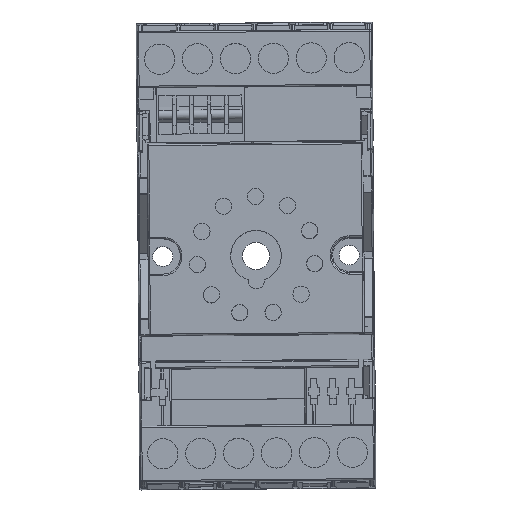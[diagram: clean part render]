
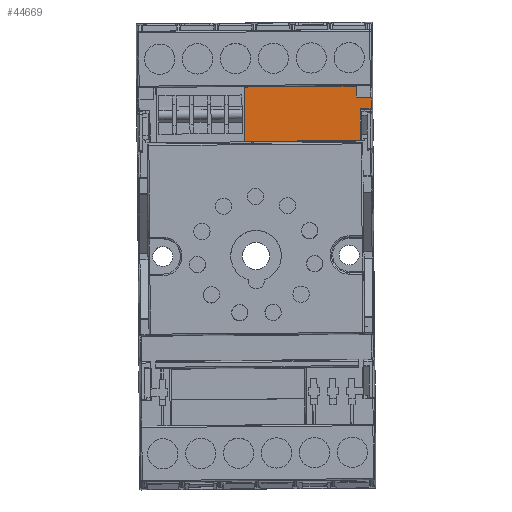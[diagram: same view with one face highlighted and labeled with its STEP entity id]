
A CAD part, top view. The second image highlights one B-rep face of the part: STEP entity #44669.
In plain terms, the highlighted planar face has unit normal (0, 0, 1).
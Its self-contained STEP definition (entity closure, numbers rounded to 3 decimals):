
#116 = ORIENTED_EDGE ( 'NONE', *, *, #5944, .T. ) ;
#338 = EDGE_CURVE ( 'NONE', #4856, #2000, #16894, .T. ) ;
#1167 = DIRECTION ( 'NONE',  ( 0.008, -1., 0. ) ) ;
#1461 = CARTESIAN_POINT ( 'NONE',  ( 17.446, 64.868, 25.3 ) ) ;
#2000 = VERTEX_POINT ( 'NONE', #40253 ) ;
#2979 = EDGE_CURVE ( 'NONE', #53953, #37790, #46363, .T. ) ;
#3071 = CIRCLE ( 'NONE', #16876, 0.15 ) ;
#4856 = VERTEX_POINT ( 'NONE', #4986 ) ;
#4986 = CARTESIAN_POINT ( 'NONE',  ( 35.41, 63.185, 25.3 ) ) ;
#5944 = EDGE_CURVE ( 'NONE', #46302, #41390, #19614, .T. ) ;
#6184 = PLANE ( 'NONE',  #39325 ) ;
#6932 = LINE ( 'NONE', #51083, #29346 ) ;
#7205 = VERTEX_POINT ( 'NONE', #42470 ) ;
#7873 = CARTESIAN_POINT ( 'NONE',  ( 36.046, 65.016, 25.3 ) ) ;
#8694 = DIRECTION ( 'NONE',  ( 0., 0., 1. ) ) ;
#10473 = ORIENTED_EDGE ( 'NONE', *, *, #36449, .F. ) ;
#11331 = DIRECTION ( 'NONE',  ( -0.008, 1., 0. ) ) ;
#11448 = DIRECTION ( 'NONE',  ( -1., -0.008, 0. ) ) ;
#11944 = ORIENTED_EDGE ( 'NONE', *, *, #13469, .T. ) ;
#12326 = CARTESIAN_POINT ( 'NONE',  ( 35.486, 63.036, 25.3 ) ) ;
#13469 = EDGE_CURVE ( 'NONE', #37206, #37790, #33996, .T. ) ;
#13621 = CARTESIAN_POINT ( 'NONE',  ( 36.116, 56.191, 25.3 ) ) ;
#13703 = ORIENTED_EDGE ( 'NONE', *, *, #53142, .T. ) ;
#15648 = DIRECTION ( 'NONE',  ( 1., 0.008, 0. ) ) ;
#16309 = VERTEX_POINT ( 'NONE', #43183 ) ;
#16684 = VECTOR ( 'NONE', #1167, 1000. ) ;
#16876 = AXIS2_PLACEMENT_3D ( 'NONE', #34530, #8694, #56632 ) ;
#16894 = LINE ( 'NONE', #46541, #20372 ) ;
#17166 = ORIENTED_EDGE ( 'NONE', *, *, #34039, .T. ) ;
#18873 = CARTESIAN_POINT ( 'NONE',  ( 37.87, 65.03, 25.3 ) ) ;
#19614 = LINE ( 'NONE', #1461, #16684 ) ;
#20372 = VECTOR ( 'NONE', #42184, 1000. ) ;
#23265 = DIRECTION ( 'NONE',  ( 0., 0., -1. ) ) ;
#25664 = CARTESIAN_POINT ( 'NONE',  ( 17.516, 56.043, 25.3 ) ) ;
#26335 = ORIENTED_EDGE ( 'NONE', *, *, #27174, .T. ) ;
#26724 = CARTESIAN_POINT ( 'NONE',  ( 36.077, 61.141, 25.3 ) ) ;
#27174 = EDGE_CURVE ( 'NONE', #7205, #16309, #6932, .T. ) ;
#27538 = ORIENTED_EDGE ( 'NONE', *, *, #2979, .F. ) ;
#27772 = VECTOR ( 'NONE', #29332, 1000. ) ;
#27915 = FACE_OUTER_BOUND ( 'NONE', #55094, .T. ) ;
#29332 = DIRECTION ( 'NONE',  ( -1., -0.008, 0. ) ) ;
#29346 = VECTOR ( 'NONE', #51637, 1000. ) ;
#29634 = CARTESIAN_POINT ( 'NONE',  ( 37.871, 64.955, 25.3 ) ) ;
#29767 = VECTOR ( 'NONE', #46369, 1000. ) ;
#30913 = CARTESIAN_POINT ( 'NONE',  ( 17.446, 64.793, 25.3 ) ) ;
#31115 = CARTESIAN_POINT ( 'NONE',  ( 36.076, 61.229, 25.3 ) ) ;
#31400 = CARTESIAN_POINT ( 'NONE',  ( 36.138, 61.291, 25.3 ) ) ;
#31964 = DIRECTION ( 'NONE',  ( 0.008, -1., 0. ) ) ;
#33996 = LINE ( 'NONE', #7873, #45149 ) ;
#34039 = EDGE_CURVE ( 'NONE', #2000, #46302, #47060, .T. ) ;
#34530 = CARTESIAN_POINT ( 'NONE',  ( 35.56, 63.187, 25.3 ) ) ;
#36062 = ORIENTED_EDGE ( 'NONE', *, *, #43515, .T. ) ;
#36375 = VECTOR ( 'NONE', #11448, 1000. ) ;
#36449 = EDGE_CURVE ( 'NONE', #4856, #44324, #3071, .T. ) ;
#37206 = VERTEX_POINT ( 'NONE', #13621 ) ;
#37439 = LINE ( 'NONE', #50263, #55514 ) ;
#37790 = VERTEX_POINT ( 'NONE', #43378 ) ;
#38451 = LINE ( 'NONE', #12326, #36375 ) ;
#39325 = AXIS2_PLACEMENT_3D ( 'NONE', #18873, #23265, #31964 ) ;
#40253 = CARTESIAN_POINT ( 'NONE',  ( 35.396, 64.935, 25.3 ) ) ;
#40481 = ORIENTED_EDGE ( 'NONE', *, *, #42256, .T. ) ;
#41390 = VERTEX_POINT ( 'NONE', #25664 ) ;
#42184 = DIRECTION ( 'NONE',  ( -0.008, 1., 0. ) ) ;
#42256 = EDGE_CURVE ( 'NONE', #41390, #37206, #37439, .T. ) ;
#42470 = CARTESIAN_POINT ( 'NONE',  ( 37.825, 61.305, 25.3 ) ) ;
#43183 = CARTESIAN_POINT ( 'NONE',  ( 37.811, 63.055, 25.3 ) ) ;
#43378 = CARTESIAN_POINT ( 'NONE',  ( 36.077, 61.141, 25.3 ) ) ;
#43515 = EDGE_CURVE ( 'NONE', #16309, #44324, #38451, .T. ) ;
#43899 = ORIENTED_EDGE ( 'NONE', *, *, #338, .T. ) ;
#44324 = VERTEX_POINT ( 'NONE', #44830 ) ;
#44669 = ADVANCED_FACE ( 'NONE', ( #27915 ), #6184, .F. ) ;
#44830 = CARTESIAN_POINT ( 'NONE',  ( 35.561, 63.037, 25.3 ) ) ;
#45149 = VECTOR ( 'NONE', #11331, 1000. ) ;
#46302 = VERTEX_POINT ( 'NONE', #30913 ) ;
#46363 =( BOUNDED_CURVE ( )  B_SPLINE_CURVE ( 3, ( #50002, #31400, #31115, #26724 ),
 .UNSPECIFIED., .F., .T. ) 
 B_SPLINE_CURVE_WITH_KNOTS ( ( 4, 4 ),
 ( 1.571, 3.142 ),
 .UNSPECIFIED. ) 
 CURVE ( )  GEOMETRIC_REPRESENTATION_ITEM ( )  RATIONAL_B_SPLINE_CURVE ( ( 1., 0.805, 0.805, 1. ) ) 
 REPRESENTATION_ITEM ( '' )  );
#46369 = DIRECTION ( 'NONE',  ( 1., 0.008, 0. ) ) ;
#46541 = CARTESIAN_POINT ( 'NONE',  ( 35.395, 65.01, 25.3 ) ) ;
#47060 = LINE ( 'NONE', #29634, #27772 ) ;
#50002 = CARTESIAN_POINT ( 'NONE',  ( 36.225, 61.292, 25.3 ) ) ;
#50263 = CARTESIAN_POINT ( 'NONE',  ( 36.19, 56.191, 25.3 ) ) ;
#51083 = CARTESIAN_POINT ( 'NONE',  ( 37.795, 65.03, 25.3 ) ) ;
#51637 = DIRECTION ( 'NONE',  ( -0.008, 1., 0. ) ) ;
#51843 = CARTESIAN_POINT ( 'NONE',  ( 37.9, 61.305, 25.3 ) ) ;
#52128 = LINE ( 'NONE', #51843, #29767 ) ;
#53142 = EDGE_CURVE ( 'NONE', #53953, #7205, #52128, .T. ) ;
#53620 = CARTESIAN_POINT ( 'NONE',  ( 36.225, 61.292, 25.3 ) ) ;
#53953 = VERTEX_POINT ( 'NONE', #53620 ) ;
#55094 = EDGE_LOOP ( 'NONE', ( #116, #40481, #11944, #27538, #13703, #26335, #36062, #10473, #43899, #17166 ) ) ;
#55514 = VECTOR ( 'NONE', #15648, 1000. ) ;
#56632 = DIRECTION ( 'NONE',  ( 0.008, -1., 0. ) ) ;
